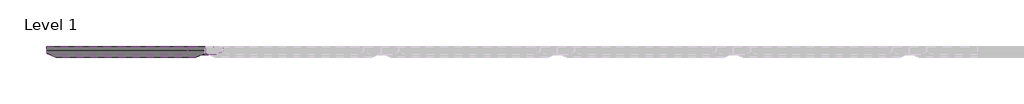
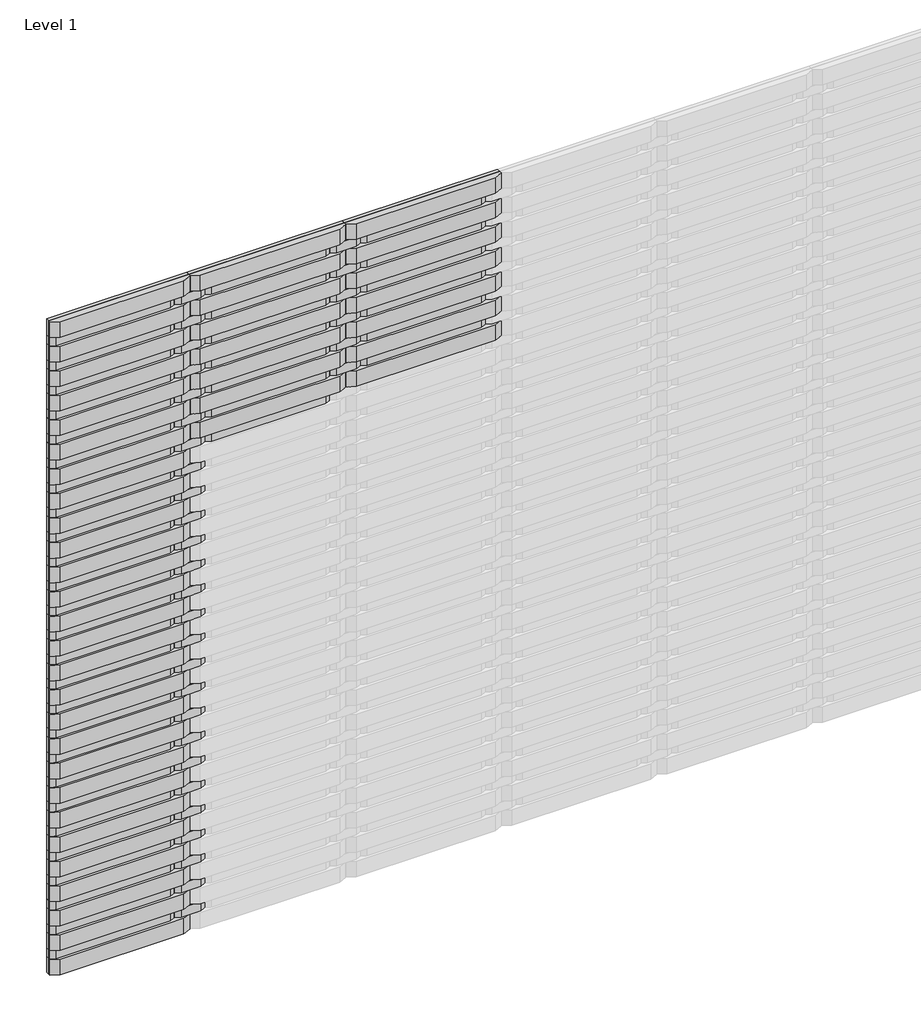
# One storey, part 1 of 4: 112 proxies.
"""IFC4 building model written with IfcOpenShell, lengths in millimetres."""

from ifc_helpers import new_model, si_unit, origin, place, context, project, spatial, transform, mapped, element, save
from components import specialty_equipment_40f1bc00, specialty_equipment_c238b70d, specialty_equipment_b25e9ab8, specialty_equipment_ba4468b7, specialty_equipment_e09701c8

model = new_model("IFC4")

# Units and contexts
model_context = context("Model", 3, world=origin())
ifc_project = project(units=[si_unit("LENGTHUNIT", "METRE", prefix="MILLI")], contexts=[model_context])

# Site, building, storey
site = spatial("IfcSite", under=ifc_project)
building = spatial("IfcBuilding", under=site)
storey = spatial("IfcBuildingStorey", under=building, Name="Level 1", Elevation=0.0)

# Proxies
placement = place(None, origin())
specialty_equipment_shape = specialty_equipment_40f1bc00(model_context)
element("IfcBuildingElementProxy", 1, Name="Spinneybeck_ARO Plank 8 : A - 2’-9” x 3 1/2” x 1 1/4”", ObjectType="Spinneybeck_ARO Plank 8 : A - 2’-9” x 3 1/2” x 1 1/4”", at=placement, inside=storey, context=model_context, shape_type="MappedRepresentation", body=[
    mapped(specialty_equipment_shape, transform((1138.179612, 2593.3070483, 3755.55), x_axis=(1.0, 0.0, 0.0), y_axis=(0.0, 0.0, 1.0), z_axis=(0.0, -1.0, 0.0))),
])
element("IfcBuildingElementProxy", 2, Name="Spinneybeck_ARO Plank 8 : A - 2’-9” x 3 1/2” x 1 1/4”", ObjectType="Spinneybeck_ARO Plank 8 : A - 2’-9” x 3 1/2” x 1 1/4”", at=placement, inside=storey, context=model_context, shape_type="MappedRepresentation", body=[
    mapped(specialty_equipment_shape, transform((1976.379612, 2593.3070483, 3755.55), x_axis=(1.0, 0.0, 0.0), y_axis=(0.0, 0.0, 1.0), z_axis=(0.0, -1.0, 0.0))),
])
element("IfcBuildingElementProxy", 3, Name="Spinneybeck_ARO Plank 8 : A - 2’-9” x 3 1/2” x 1 1/4”", ObjectType="Spinneybeck_ARO Plank 8 : A - 2’-9” x 3 1/2” x 1 1/4”", at=placement, inside=storey, context=model_context, shape_type="MappedRepresentation", body=[
    mapped(specialty_equipment_shape, transform((1138.179612, 2593.3070483, 3615.85), x_axis=(1.0, 0.0, 0.0), y_axis=(0.0, 0.0, 1.0), z_axis=(0.0, -1.0, 0.0))),
])
element("IfcBuildingElementProxy", 4, Name="Spinneybeck_ARO Plank 8 : A - 2’-9” x 3 1/2” x 1 1/4”", ObjectType="Spinneybeck_ARO Plank 8 : A - 2’-9” x 3 1/2” x 1 1/4”", at=placement, inside=storey, context=model_context, shape_type="MappedRepresentation", body=[
    mapped(specialty_equipment_shape, transform((1976.379612, 2593.3070483, 3615.85), x_axis=(1.0, 0.0, 0.0), y_axis=(0.0, 0.0, 1.0), z_axis=(0.0, -1.0, 0.0))),
])
element("IfcBuildingElementProxy", 5, Name="Spinneybeck_ARO Plank 8 : A - 2’-9” x 3 1/2” x 1 1/4”", ObjectType="Spinneybeck_ARO Plank 8 : A - 2’-9” x 3 1/2” x 1 1/4”", at=placement, inside=storey, context=model_context, shape_type="MappedRepresentation", body=[
    mapped(specialty_equipment_shape, transform((1138.179612, 2593.3070483, 3476.15), x_axis=(1.0, 0.0, 0.0), y_axis=(0.0, 0.0, 1.0), z_axis=(0.0, -1.0, 0.0))),
])
element("IfcBuildingElementProxy", 6, Name="Spinneybeck_ARO Plank 8 : A - 2’-9” x 3 1/2” x 1 1/4”", ObjectType="Spinneybeck_ARO Plank 8 : A - 2’-9” x 3 1/2” x 1 1/4”", at=placement, inside=storey, context=model_context, shape_type="MappedRepresentation", body=[
    mapped(specialty_equipment_shape, transform((1976.379612, 2593.3070483, 3476.15), x_axis=(1.0, 0.0, 0.0), y_axis=(0.0, 0.0, 1.0), z_axis=(0.0, -1.0, 0.0))),
])
element("IfcBuildingElementProxy", 7, Name="Spinneybeck_ARO Plank 8 : A - 2’-9” x 3 1/2” x 1 1/4”", ObjectType="Spinneybeck_ARO Plank 8 : A - 2’-9” x 3 1/2” x 1 1/4”", at=placement, inside=storey, context=model_context, shape_type="MappedRepresentation", body=[
    mapped(specialty_equipment_shape, transform((1138.179612, 2593.3070483, 3336.45), x_axis=(1.0, 0.0, 0.0), y_axis=(0.0, 0.0, 1.0), z_axis=(0.0, -1.0, 0.0))),
])
element("IfcBuildingElementProxy", 8, Name="Spinneybeck_ARO Plank 8 : A - 2’-9” x 3 1/2” x 1 1/4”", ObjectType="Spinneybeck_ARO Plank 8 : A - 2’-9” x 3 1/2” x 1 1/4”", at=placement, inside=storey, context=model_context, shape_type="MappedRepresentation", body=[
    mapped(specialty_equipment_shape, transform((1976.379612, 2593.3070483, 3336.45), x_axis=(1.0, 0.0, 0.0), y_axis=(0.0, 0.0, 1.0), z_axis=(0.0, -1.0, 0.0))),
])
element("IfcBuildingElementProxy", 9, Name="Spinneybeck_ARO Plank 8 : A - 2’-9” x 3 1/2” x 1 1/4”", ObjectType="Spinneybeck_ARO Plank 8 : A - 2’-9” x 3 1/2” x 1 1/4”", at=placement, inside=storey, context=model_context, shape_type="MappedRepresentation", body=[
    mapped(specialty_equipment_shape, transform((1138.179612, 2593.3070483, 3196.75), x_axis=(1.0, 0.0, 0.0), y_axis=(0.0, 0.0, 1.0), z_axis=(0.0, -1.0, 0.0))),
])
element("IfcBuildingElementProxy", 10, Name="Spinneybeck_ARO Plank 8 : A - 2’-9” x 3 1/2” x 1 1/4”", ObjectType="Spinneybeck_ARO Plank 8 : A - 2’-9” x 3 1/2” x 1 1/4”", at=placement, inside=storey, context=model_context, shape_type="MappedRepresentation", body=[
    mapped(specialty_equipment_shape, transform((1976.379612, 2593.3070483, 3196.75), x_axis=(1.0, 0.0, 0.0), y_axis=(0.0, 0.0, 1.0), z_axis=(0.0, -1.0, 0.0))),
])
element("IfcBuildingElementProxy", 11, Name="Spinneybeck_ARO Plank 8 : A - 2’-9” x 3 1/2” x 1 1/4”", ObjectType="Spinneybeck_ARO Plank 8 : A - 2’-9” x 3 1/2” x 1 1/4”", at=placement, inside=storey, context=model_context, shape_type="MappedRepresentation", body=[
    mapped(specialty_equipment_shape, transform((1138.179612, 2593.3070483, 3057.05), x_axis=(1.0, 0.0, 0.0), y_axis=(0.0, 0.0, 1.0), z_axis=(0.0, -1.0, 0.0))),
])
element("IfcBuildingElementProxy", 12, Name="Spinneybeck_ARO Plank 8 : A - 2’-9” x 3 1/2” x 1 1/4”", ObjectType="Spinneybeck_ARO Plank 8 : A - 2’-9” x 3 1/2” x 1 1/4”", at=placement, inside=storey, context=model_context, shape_type="MappedRepresentation", body=[
    mapped(specialty_equipment_shape, transform((1976.379612, 2593.3070483, 3057.05), x_axis=(1.0, 0.0, 0.0), y_axis=(0.0, 0.0, 1.0), z_axis=(0.0, -1.0, 0.0))),
])
element("IfcBuildingElementProxy", 13, Name="Spinneybeck_ARO Plank 8 : A - 2’-9” x 3 1/2” x 1 1/4”", ObjectType="Spinneybeck_ARO Plank 8 : A - 2’-9” x 3 1/2” x 1 1/4”", at=placement, inside=storey, context=model_context, shape_type="MappedRepresentation", body=[
    mapped(specialty_equipment_shape, transform((1138.179612, 2593.3070483, 2917.35), x_axis=(1.0, 0.0, 0.0), y_axis=(0.0, 0.0, 1.0), z_axis=(0.0, -1.0, 0.0))),
])
element("IfcBuildingElementProxy", 14, Name="Spinneybeck_ARO Plank 8 : A - 2’-9” x 3 1/2” x 1 1/4”", ObjectType="Spinneybeck_ARO Plank 8 : A - 2’-9” x 3 1/2” x 1 1/4”", at=placement, inside=storey, context=model_context, shape_type="MappedRepresentation", body=[
    mapped(specialty_equipment_shape, transform((1976.379612, 2593.3070483, 2917.35), x_axis=(1.0, 0.0, 0.0), y_axis=(0.0, 0.0, 1.0), z_axis=(0.0, -1.0, 0.0))),
])
specialty_equipment_2_shape = specialty_equipment_c238b70d(model_context)
element("IfcBuildingElementProxy", 15, Name="Spinneybeck_ARO Plank 8 : E - 6 1/2” x 2” x 3/4”", ObjectType="Spinneybeck_ARO Plank 8 : E - 6 1/2” x 2” x 3/4”", at=placement, inside=storey, context=model_context, shape_type="MappedRepresentation", body=[
    mapped(specialty_equipment_2_shape, transform((719.079612, 2593.3070483, 3685.7), x_axis=(1.0, 0.0, 0.0), y_axis=(0.0, 0.0, 1.0), z_axis=(0.0, -1.0, 0.0))),
])
element("IfcBuildingElementProxy", 16, Name="Spinneybeck_ARO Plank 8 : E - 6 1/2” x 2” x 3/4”", ObjectType="Spinneybeck_ARO Plank 8 : E - 6 1/2” x 2” x 3/4”", at=placement, inside=storey, context=model_context, shape_type="MappedRepresentation", body=[
    mapped(specialty_equipment_2_shape, transform((1557.279612, 2593.3070483, 3685.7), x_axis=(1.0, 0.0, 0.0), y_axis=(0.0, 0.0, 1.0), z_axis=(0.0, -1.0, 0.0))),
])
element("IfcBuildingElementProxy", 17, Name="Spinneybeck_ARO Plank 8 : E - 6 1/2” x 2” x 3/4”", ObjectType="Spinneybeck_ARO Plank 8 : E - 6 1/2” x 2” x 3/4”", at=placement, inside=storey, context=model_context, shape_type="MappedRepresentation", body=[
    mapped(specialty_equipment_2_shape, transform((719.079612, 2593.3070483, 3546.0), x_axis=(1.0, 0.0, 0.0), y_axis=(0.0, 0.0, 1.0), z_axis=(0.0, -1.0, 0.0))),
])
element("IfcBuildingElementProxy", 18, Name="Spinneybeck_ARO Plank 8 : E - 6 1/2” x 2” x 3/4”", ObjectType="Spinneybeck_ARO Plank 8 : E - 6 1/2” x 2” x 3/4”", at=placement, inside=storey, context=model_context, shape_type="MappedRepresentation", body=[
    mapped(specialty_equipment_2_shape, transform((1557.279612, 2593.3070483, 3546.0), x_axis=(1.0, 0.0, 0.0), y_axis=(0.0, 0.0, 1.0), z_axis=(0.0, -1.0, 0.0))),
])
element("IfcBuildingElementProxy", 19, Name="Spinneybeck_ARO Plank 8 : E - 6 1/2” x 2” x 3/4”", ObjectType="Spinneybeck_ARO Plank 8 : E - 6 1/2” x 2” x 3/4”", at=placement, inside=storey, context=model_context, shape_type="MappedRepresentation", body=[
    mapped(specialty_equipment_2_shape, transform((719.079612, 2593.3070483, 3406.3), x_axis=(1.0, 0.0, 0.0), y_axis=(0.0, 0.0, 1.0), z_axis=(0.0, -1.0, 0.0))),
])
element("IfcBuildingElementProxy", 20, Name="Spinneybeck_ARO Plank 8 : E - 6 1/2” x 2” x 3/4”", ObjectType="Spinneybeck_ARO Plank 8 : E - 6 1/2” x 2” x 3/4”", at=placement, inside=storey, context=model_context, shape_type="MappedRepresentation", body=[
    mapped(specialty_equipment_2_shape, transform((1557.279612, 2593.3070483, 3406.3), x_axis=(1.0, 0.0, 0.0), y_axis=(0.0, 0.0, 1.0), z_axis=(0.0, -1.0, 0.0))),
])
element("IfcBuildingElementProxy", 21, Name="Spinneybeck_ARO Plank 8 : E - 6 1/2” x 2” x 3/4”", ObjectType="Spinneybeck_ARO Plank 8 : E - 6 1/2” x 2” x 3/4”", at=placement, inside=storey, context=model_context, shape_type="MappedRepresentation", body=[
    mapped(specialty_equipment_2_shape, transform((719.079612, 2593.3070483, 3266.6), x_axis=(1.0, 0.0, 0.0), y_axis=(0.0, 0.0, 1.0), z_axis=(0.0, -1.0, 0.0))),
])
element("IfcBuildingElementProxy", 22, Name="Spinneybeck_ARO Plank 8 : E - 6 1/2” x 2” x 3/4”", ObjectType="Spinneybeck_ARO Plank 8 : E - 6 1/2” x 2” x 3/4”", at=placement, inside=storey, context=model_context, shape_type="MappedRepresentation", body=[
    mapped(specialty_equipment_2_shape, transform((1557.279612, 2593.3070483, 3266.6), x_axis=(1.0, 0.0, 0.0), y_axis=(0.0, 0.0, 1.0), z_axis=(0.0, -1.0, 0.0))),
])
element("IfcBuildingElementProxy", 23, Name="Spinneybeck_ARO Plank 8 : E - 6 1/2” x 2” x 3/4”", ObjectType="Spinneybeck_ARO Plank 8 : E - 6 1/2” x 2” x 3/4”", at=placement, inside=storey, context=model_context, shape_type="MappedRepresentation", body=[
    mapped(specialty_equipment_2_shape, transform((719.079612, 2593.3070483, 3126.9), x_axis=(1.0, 0.0, 0.0), y_axis=(0.0, 0.0, 1.0), z_axis=(0.0, -1.0, 0.0))),
])
element("IfcBuildingElementProxy", 24, Name="Spinneybeck_ARO Plank 8 : E - 6 1/2” x 2” x 3/4”", ObjectType="Spinneybeck_ARO Plank 8 : E - 6 1/2” x 2” x 3/4”", at=placement, inside=storey, context=model_context, shape_type="MappedRepresentation", body=[
    mapped(specialty_equipment_2_shape, transform((1557.279612, 2593.3070483, 3126.9), x_axis=(1.0, 0.0, 0.0), y_axis=(0.0, 0.0, 1.0), z_axis=(0.0, -1.0, 0.0))),
])
element("IfcBuildingElementProxy", 25, Name="Spinneybeck_ARO Plank 8 : E - 6 1/2” x 2” x 3/4”", ObjectType="Spinneybeck_ARO Plank 8 : E - 6 1/2” x 2” x 3/4”", at=placement, inside=storey, context=model_context, shape_type="MappedRepresentation", body=[
    mapped(specialty_equipment_2_shape, transform((719.079612, 2593.3070483, 2987.2), x_axis=(1.0, 0.0, 0.0), y_axis=(0.0, 0.0, 1.0), z_axis=(0.0, -1.0, 0.0))),
])
element("IfcBuildingElementProxy", 26, Name="Spinneybeck_ARO Plank 8 : E - 6 1/2” x 2” x 3/4”", ObjectType="Spinneybeck_ARO Plank 8 : E - 6 1/2” x 2” x 3/4”", at=placement, inside=storey, context=model_context, shape_type="MappedRepresentation", body=[
    mapped(specialty_equipment_2_shape, transform((1557.279612, 2593.3070483, 2987.2), x_axis=(1.0, 0.0, 0.0), y_axis=(0.0, 0.0, 1.0), z_axis=(0.0, -1.0, 0.0))),
])
element("IfcBuildingElementProxy", 27, Name="Spinneybeck_ARO Plank 8 : E - 6 1/2” x 2” x 3/4”", ObjectType="Spinneybeck_ARO Plank 8 : E - 6 1/2” x 2” x 3/4”", at=placement, inside=storey, context=model_context, shape_type="MappedRepresentation", body=[
    mapped(specialty_equipment_2_shape, transform((719.079612, 2593.3070483, 2847.5), x_axis=(1.0, 0.0, 0.0), y_axis=(0.0, 0.0, 1.0), z_axis=(0.0, -1.0, 0.0))),
])
element("IfcBuildingElementProxy", 28, Name="Spinneybeck_ARO Plank 8 : E - 6 1/2” x 2” x 3/4”", ObjectType="Spinneybeck_ARO Plank 8 : E - 6 1/2” x 2” x 3/4”", at=placement, inside=storey, context=model_context, shape_type="MappedRepresentation", body=[
    mapped(specialty_equipment_2_shape, transform((719.079612, 2593.3070483, 2707.8), x_axis=(1.0, 0.0, 0.0), y_axis=(0.0, 0.0, 1.0), z_axis=(0.0, -1.0, 0.0))),
])
element("IfcBuildingElementProxy", 29, Name="Spinneybeck_ARO Plank 8 : E - 6 1/2” x 2” x 3/4”", ObjectType="Spinneybeck_ARO Plank 8 : E - 6 1/2” x 2” x 3/4”", at=placement, inside=storey, context=model_context, shape_type="MappedRepresentation", body=[
    mapped(specialty_equipment_2_shape, transform((719.079612, 2593.3070483, 2568.1), x_axis=(1.0, 0.0, 0.0), y_axis=(0.0, 0.0, 1.0), z_axis=(0.0, -1.0, 0.0))),
])
element("IfcBuildingElementProxy", 30, Name="Spinneybeck_ARO Plank 8 : E - 6 1/2” x 2” x 3/4”", ObjectType="Spinneybeck_ARO Plank 8 : E - 6 1/2” x 2” x 3/4”", at=placement, inside=storey, context=model_context, shape_type="MappedRepresentation", body=[
    mapped(specialty_equipment_2_shape, transform((719.079612, 2593.3070483, 2428.4), x_axis=(1.0, 0.0, 0.0), y_axis=(0.0, 0.0, 1.0), z_axis=(0.0, -1.0, 0.0))),
])
element("IfcBuildingElementProxy", 31, Name="Spinneybeck_ARO Plank 8 : E - 6 1/2” x 2” x 3/4”", ObjectType="Spinneybeck_ARO Plank 8 : E - 6 1/2” x 2” x 3/4”", at=placement, inside=storey, context=model_context, shape_type="MappedRepresentation", body=[
    mapped(specialty_equipment_2_shape, transform((719.079612, 2593.3070483, 2288.7), x_axis=(1.0, 0.0, 0.0), y_axis=(0.0, 0.0, 1.0), z_axis=(0.0, -1.0, 0.0))),
])
element("IfcBuildingElementProxy", 32, Name="Spinneybeck_ARO Plank 8 : E - 6 1/2” x 2” x 3/4”", ObjectType="Spinneybeck_ARO Plank 8 : E - 6 1/2” x 2” x 3/4”", at=placement, inside=storey, context=model_context, shape_type="MappedRepresentation", body=[
    mapped(specialty_equipment_2_shape, transform((719.079612, 2593.3070483, 2149.0), x_axis=(1.0, 0.0, 0.0), y_axis=(0.0, 0.0, 1.0), z_axis=(0.0, -1.0, 0.0))),
])
element("IfcBuildingElementProxy", 33, Name="Spinneybeck_ARO Plank 8 : E - 6 1/2” x 2” x 3/4”", ObjectType="Spinneybeck_ARO Plank 8 : E - 6 1/2” x 2” x 3/4”", at=placement, inside=storey, context=model_context, shape_type="MappedRepresentation", body=[
    mapped(specialty_equipment_2_shape, transform((719.079612, 2593.3070483, 2009.3), x_axis=(1.0, 0.0, 0.0), y_axis=(0.0, 0.0, 1.0), z_axis=(0.0, -1.0, 0.0))),
])
element("IfcBuildingElementProxy", 34, Name="Spinneybeck_ARO Plank 8 : E - 6 1/2” x 2” x 3/4”", ObjectType="Spinneybeck_ARO Plank 8 : E - 6 1/2” x 2” x 3/4”", at=placement, inside=storey, context=model_context, shape_type="MappedRepresentation", body=[
    mapped(specialty_equipment_2_shape, transform((719.079612, 2593.3070483, 1869.6), x_axis=(1.0, 0.0, 0.0), y_axis=(0.0, 0.0, 1.0), z_axis=(0.0, -1.0, 0.0))),
])
element("IfcBuildingElementProxy", 35, Name="Spinneybeck_ARO Plank 8 : E - 6 1/2” x 2” x 3/4”", ObjectType="Spinneybeck_ARO Plank 8 : E - 6 1/2” x 2” x 3/4”", at=placement, inside=storey, context=model_context, shape_type="MappedRepresentation", body=[
    mapped(specialty_equipment_2_shape, transform((719.079612, 2593.3070483, 1729.9), x_axis=(1.0, 0.0, 0.0), y_axis=(0.0, 0.0, 1.0), z_axis=(0.0, -1.0, 0.0))),
])
element("IfcBuildingElementProxy", 36, Name="Spinneybeck_ARO Plank 8 : E - 6 1/2” x 2” x 3/4”", ObjectType="Spinneybeck_ARO Plank 8 : E - 6 1/2” x 2” x 3/4”", at=placement, inside=storey, context=model_context, shape_type="MappedRepresentation", body=[
    mapped(specialty_equipment_2_shape, transform((719.079612, 2593.3070483, 1590.2), x_axis=(1.0, 0.0, 0.0), y_axis=(0.0, 0.0, 1.0), z_axis=(0.0, -1.0, 0.0))),
])
element("IfcBuildingElementProxy", 37, Name="Spinneybeck_ARO Plank 8 : E - 6 1/2” x 2” x 3/4”", ObjectType="Spinneybeck_ARO Plank 8 : E - 6 1/2” x 2” x 3/4”", at=placement, inside=storey, context=model_context, shape_type="MappedRepresentation", body=[
    mapped(specialty_equipment_2_shape, transform((719.079612, 2593.3070483, 1450.5), x_axis=(1.0, 0.0, 0.0), y_axis=(0.0, 0.0, 1.0), z_axis=(0.0, -1.0, 0.0))),
])
element("IfcBuildingElementProxy", 38, Name="Spinneybeck_ARO Plank 8 : E - 6 1/2” x 2” x 3/4”", ObjectType="Spinneybeck_ARO Plank 8 : E - 6 1/2” x 2” x 3/4”", at=placement, inside=storey, context=model_context, shape_type="MappedRepresentation", body=[
    mapped(specialty_equipment_2_shape, transform((719.079612, 2593.3070483, 1310.8), x_axis=(1.0, 0.0, 0.0), y_axis=(0.0, 0.0, 1.0), z_axis=(0.0, -1.0, 0.0))),
])
element("IfcBuildingElementProxy", 39, Name="Spinneybeck_ARO Plank 8 : E - 6 1/2” x 2” x 3/4”", ObjectType="Spinneybeck_ARO Plank 8 : E - 6 1/2” x 2” x 3/4”", at=placement, inside=storey, context=model_context, shape_type="MappedRepresentation", body=[
    mapped(specialty_equipment_2_shape, transform((719.079612, 2593.3070483, 1171.1), x_axis=(1.0, 0.0, 0.0), y_axis=(0.0, 0.0, 1.0), z_axis=(0.0, -1.0, 0.0))),
])
element("IfcBuildingElementProxy", 40, Name="Spinneybeck_ARO Plank 8 : E - 6 1/2” x 2” x 3/4”", ObjectType="Spinneybeck_ARO Plank 8 : E - 6 1/2” x 2” x 3/4”", at=placement, inside=storey, context=model_context, shape_type="MappedRepresentation", body=[
    mapped(specialty_equipment_2_shape, transform((719.079612, 2593.3070483, 1031.4), x_axis=(1.0, 0.0, 0.0), y_axis=(0.0, 0.0, 1.0), z_axis=(0.0, -1.0, 0.0))),
])
element("IfcBuildingElementProxy", 41, Name="Spinneybeck_ARO Plank 8 : E - 6 1/2” x 2” x 3/4”", ObjectType="Spinneybeck_ARO Plank 8 : E - 6 1/2” x 2” x 3/4”", at=placement, inside=storey, context=model_context, shape_type="MappedRepresentation", body=[
    mapped(specialty_equipment_2_shape, transform((719.079612, 2593.3070483, 891.7), x_axis=(1.0, 0.0, 0.0), y_axis=(0.0, 0.0, 1.0), z_axis=(0.0, -1.0, 0.0))),
])
element("IfcBuildingElementProxy", 42, Name="Spinneybeck_ARO Plank 8 : E - 6 1/2” x 2” x 3/4”", ObjectType="Spinneybeck_ARO Plank 8 : E - 6 1/2” x 2” x 3/4”", at=placement, inside=storey, context=model_context, shape_type="MappedRepresentation", body=[
    mapped(specialty_equipment_2_shape, transform((719.079612, 2593.3070483, 752.0), x_axis=(1.0, 0.0, 0.0), y_axis=(0.0, 0.0, 1.0), z_axis=(0.0, -1.0, 0.0))),
])
element("IfcBuildingElementProxy", 43, Name="Spinneybeck_ARO Plank 8 : E - 6 1/2” x 2” x 3/4”", ObjectType="Spinneybeck_ARO Plank 8 : E - 6 1/2” x 2” x 3/4”", at=placement, inside=storey, context=model_context, shape_type="MappedRepresentation", body=[
    mapped(specialty_equipment_2_shape, transform((719.079612, 2593.3070483, 612.3), x_axis=(1.0, 0.0, 0.0), y_axis=(0.0, 0.0, 1.0), z_axis=(0.0, -1.0, 0.0))),
])
element("IfcBuildingElementProxy", 44, Name="Spinneybeck_ARO Plank 8 : E - 6 1/2” x 2” x 3/4”", ObjectType="Spinneybeck_ARO Plank 8 : E - 6 1/2” x 2” x 3/4”", at=placement, inside=storey, context=model_context, shape_type="MappedRepresentation", body=[
    mapped(specialty_equipment_2_shape, transform((719.079612, 2593.3070483, 472.6), x_axis=(1.0, 0.0, 0.0), y_axis=(0.0, 0.0, 1.0), z_axis=(0.0, -1.0, 0.0))),
])
element("IfcBuildingElementProxy", 45, Name="Spinneybeck_ARO Plank 8 : E - 6 1/2” x 2” x 3/4”", ObjectType="Spinneybeck_ARO Plank 8 : E - 6 1/2” x 2” x 3/4”", at=placement, inside=storey, context=model_context, shape_type="MappedRepresentation", body=[
    mapped(specialty_equipment_2_shape, transform((719.079612, 2593.3070483, 332.9), x_axis=(1.0, 0.0, 0.0), y_axis=(0.0, 0.0, 1.0), z_axis=(0.0, -1.0, 0.0))),
])
element("IfcBuildingElementProxy", 46, Name="Spinneybeck_ARO Plank 8 : E - 6 1/2” x 2” x 3/4”", ObjectType="Spinneybeck_ARO Plank 8 : E - 6 1/2” x 2” x 3/4”", at=placement, inside=storey, context=model_context, shape_type="MappedRepresentation", body=[
    mapped(specialty_equipment_2_shape, transform((719.079612, 2593.3070483, 193.2), x_axis=(1.0, 0.0, 0.0), y_axis=(0.0, 0.0, 1.0), z_axis=(0.0, -1.0, 0.0))),
])
specialty_equipment_3_shape = specialty_equipment_b25e9ab8(model_context)
element("IfcBuildingElementProxy", 47, Name="Spinneybeck_ARO Plank 8 : A - 2’-9” x 3 1/2” x 1 1/4”", ObjectType="Spinneybeck_ARO Plank 8 : A - 2’-9” x 3 1/2” x 1 1/4”", at=placement, inside=storey, context=model_context, shape_type="MappedRepresentation", body=[
    mapped(specialty_equipment_3_shape, transform((341.254612, 2593.3070483, 3755.55), x_axis=(1.0, 0.0, 0.0), y_axis=(0.0, 0.0, 1.0), z_axis=(0.0, -1.0, 0.0))),
])
element("IfcBuildingElementProxy", 48, Name="Spinneybeck_ARO Plank 8 : A - 2’-9” x 3 1/2” x 1 1/4”", ObjectType="Spinneybeck_ARO Plank 8 : A - 2’-9” x 3 1/2” x 1 1/4”", at=placement, inside=storey, context=model_context, shape_type="MappedRepresentation", body=[
    mapped(specialty_equipment_3_shape, transform((341.254612, 2593.3070483, 3615.85), x_axis=(1.0, 0.0, 0.0), y_axis=(0.0, 0.0, 1.0), z_axis=(0.0, -1.0, 0.0))),
])
element("IfcBuildingElementProxy", 49, Name="Spinneybeck_ARO Plank 8 : A - 2’-9” x 3 1/2” x 1 1/4”", ObjectType="Spinneybeck_ARO Plank 8 : A - 2’-9” x 3 1/2” x 1 1/4”", at=placement, inside=storey, context=model_context, shape_type="MappedRepresentation", body=[
    mapped(specialty_equipment_3_shape, transform((341.254612, 2593.3070483, 3476.15), x_axis=(1.0, 0.0, 0.0), y_axis=(0.0, 0.0, 1.0), z_axis=(0.0, -1.0, 0.0))),
])
element("IfcBuildingElementProxy", 50, Name="Spinneybeck_ARO Plank 8 : A - 2’-9” x 3 1/2” x 1 1/4”", ObjectType="Spinneybeck_ARO Plank 8 : A - 2’-9” x 3 1/2” x 1 1/4”", at=placement, inside=storey, context=model_context, shape_type="MappedRepresentation", body=[
    mapped(specialty_equipment_3_shape, transform((341.254612, 2593.3070483, 3336.45), x_axis=(1.0, 0.0, 0.0), y_axis=(0.0, 0.0, 1.0), z_axis=(0.0, -1.0, 0.0))),
])
element("IfcBuildingElementProxy", 51, Name="Spinneybeck_ARO Plank 8 : A - 2’-9” x 3 1/2” x 1 1/4”", ObjectType="Spinneybeck_ARO Plank 8 : A - 2’-9” x 3 1/2” x 1 1/4”", at=placement, inside=storey, context=model_context, shape_type="MappedRepresentation", body=[
    mapped(specialty_equipment_3_shape, transform((341.254612, 2593.3070483, 3196.75), x_axis=(1.0, 0.0, 0.0), y_axis=(0.0, 0.0, 1.0), z_axis=(0.0, -1.0, 0.0))),
])
element("IfcBuildingElementProxy", 52, Name="Spinneybeck_ARO Plank 8 : A - 2’-9” x 3 1/2” x 1 1/4”", ObjectType="Spinneybeck_ARO Plank 8 : A - 2’-9” x 3 1/2” x 1 1/4”", at=placement, inside=storey, context=model_context, shape_type="MappedRepresentation", body=[
    mapped(specialty_equipment_3_shape, transform((341.254612, 2593.3070483, 3057.05), x_axis=(1.0, 0.0, 0.0), y_axis=(0.0, 0.0, 1.0), z_axis=(0.0, -1.0, 0.0))),
])
element("IfcBuildingElementProxy", 53, Name="Spinneybeck_ARO Plank 8 : A - 2’-9” x 3 1/2” x 1 1/4”", ObjectType="Spinneybeck_ARO Plank 8 : A - 2’-9” x 3 1/2” x 1 1/4”", at=placement, inside=storey, context=model_context, shape_type="MappedRepresentation", body=[
    mapped(specialty_equipment_3_shape, transform((341.254612, 2593.3070483, 2917.35), x_axis=(1.0, 0.0, 0.0), y_axis=(0.0, 0.0, 1.0), z_axis=(0.0, -1.0, 0.0))),
])
element("IfcBuildingElementProxy", 54, Name="Spinneybeck_ARO Plank 8 : A - 2’-9” x 3 1/2” x 1 1/4”", ObjectType="Spinneybeck_ARO Plank 8 : A - 2’-9” x 3 1/2” x 1 1/4”", at=placement, inside=storey, context=model_context, shape_type="MappedRepresentation", body=[
    mapped(specialty_equipment_3_shape, transform((341.254612, 2593.3070483, 2777.65), x_axis=(1.0, 0.0, 0.0), y_axis=(0.0, 0.0, 1.0), z_axis=(0.0, -1.0, 0.0))),
])
element("IfcBuildingElementProxy", 55, Name="Spinneybeck_ARO Plank 8 : A - 2’-9” x 3 1/2” x 1 1/4”", ObjectType="Spinneybeck_ARO Plank 8 : A - 2’-9” x 3 1/2” x 1 1/4”", at=placement, inside=storey, context=model_context, shape_type="MappedRepresentation", body=[
    mapped(specialty_equipment_3_shape, transform((341.254612, 2593.3070483, 2637.95), x_axis=(1.0, 0.0, 0.0), y_axis=(0.0, 0.0, 1.0), z_axis=(0.0, -1.0, 0.0))),
])
element("IfcBuildingElementProxy", 56, Name="Spinneybeck_ARO Plank 8 : A - 2’-9” x 3 1/2” x 1 1/4”", ObjectType="Spinneybeck_ARO Plank 8 : A - 2’-9” x 3 1/2” x 1 1/4”", at=placement, inside=storey, context=model_context, shape_type="MappedRepresentation", body=[
    mapped(specialty_equipment_3_shape, transform((341.254612, 2593.3070483, 2498.25), x_axis=(1.0, 0.0, 0.0), y_axis=(0.0, 0.0, 1.0), z_axis=(0.0, -1.0, 0.0))),
])
element("IfcBuildingElementProxy", 57, Name="Spinneybeck_ARO Plank 8 : A - 2’-9” x 3 1/2” x 1 1/4”", ObjectType="Spinneybeck_ARO Plank 8 : A - 2’-9” x 3 1/2” x 1 1/4”", at=placement, inside=storey, context=model_context, shape_type="MappedRepresentation", body=[
    mapped(specialty_equipment_3_shape, transform((341.254612, 2593.3070483, 2358.55), x_axis=(1.0, 0.0, 0.0), y_axis=(0.0, 0.0, 1.0), z_axis=(0.0, -1.0, 0.0))),
])
element("IfcBuildingElementProxy", 58, Name="Spinneybeck_ARO Plank 8 : A - 2’-9” x 3 1/2” x 1 1/4”", ObjectType="Spinneybeck_ARO Plank 8 : A - 2’-9” x 3 1/2” x 1 1/4”", at=placement, inside=storey, context=model_context, shape_type="MappedRepresentation", body=[
    mapped(specialty_equipment_3_shape, transform((341.254612, 2593.3070483, 2218.85), x_axis=(1.0, 0.0, 0.0), y_axis=(0.0, 0.0, 1.0), z_axis=(0.0, -1.0, 0.0))),
])
element("IfcBuildingElementProxy", 59, Name="Spinneybeck_ARO Plank 8 : A - 2’-9” x 3 1/2” x 1 1/4”", ObjectType="Spinneybeck_ARO Plank 8 : A - 2’-9” x 3 1/2” x 1 1/4”", at=placement, inside=storey, context=model_context, shape_type="MappedRepresentation", body=[
    mapped(specialty_equipment_3_shape, transform((341.254612, 2593.3070483, 2079.15), x_axis=(1.0, 0.0, 0.0), y_axis=(0.0, 0.0, 1.0), z_axis=(0.0, -1.0, 0.0))),
])
element("IfcBuildingElementProxy", 60, Name="Spinneybeck_ARO Plank 8 : A - 2’-9” x 3 1/2” x 1 1/4”", ObjectType="Spinneybeck_ARO Plank 8 : A - 2’-9” x 3 1/2” x 1 1/4”", at=placement, inside=storey, context=model_context, shape_type="MappedRepresentation", body=[
    mapped(specialty_equipment_3_shape, transform((341.254612, 2593.3070483, 1939.45), x_axis=(1.0, 0.0, 0.0), y_axis=(0.0, 0.0, 1.0), z_axis=(0.0, -1.0, 0.0))),
])
element("IfcBuildingElementProxy", 61, Name="Spinneybeck_ARO Plank 8 : A - 2’-9” x 3 1/2” x 1 1/4”", ObjectType="Spinneybeck_ARO Plank 8 : A - 2’-9” x 3 1/2” x 1 1/4”", at=placement, inside=storey, context=model_context, shape_type="MappedRepresentation", body=[
    mapped(specialty_equipment_3_shape, transform((341.254612, 2593.3070483, 1799.75), x_axis=(1.0, 0.0, 0.0), y_axis=(0.0, 0.0, 1.0), z_axis=(0.0, -1.0, 0.0))),
])
element("IfcBuildingElementProxy", 62, Name="Spinneybeck_ARO Plank 8 : A - 2’-9” x 3 1/2” x 1 1/4”", ObjectType="Spinneybeck_ARO Plank 8 : A - 2’-9” x 3 1/2” x 1 1/4”", at=placement, inside=storey, context=model_context, shape_type="MappedRepresentation", body=[
    mapped(specialty_equipment_3_shape, transform((341.254612, 2593.3070483, 1660.05), x_axis=(1.0, 0.0, 0.0), y_axis=(0.0, 0.0, 1.0), z_axis=(0.0, -1.0, 0.0))),
])
element("IfcBuildingElementProxy", 63, Name="Spinneybeck_ARO Plank 8 : A - 2’-9” x 3 1/2” x 1 1/4”", ObjectType="Spinneybeck_ARO Plank 8 : A - 2’-9” x 3 1/2” x 1 1/4”", at=placement, inside=storey, context=model_context, shape_type="MappedRepresentation", body=[
    mapped(specialty_equipment_3_shape, transform((341.254612, 2593.3070483, 1520.35), x_axis=(1.0, 0.0, 0.0), y_axis=(0.0, 0.0, 1.0), z_axis=(0.0, -1.0, 0.0))),
])
element("IfcBuildingElementProxy", 64, Name="Spinneybeck_ARO Plank 8 : A - 2’-9” x 3 1/2” x 1 1/4”", ObjectType="Spinneybeck_ARO Plank 8 : A - 2’-9” x 3 1/2” x 1 1/4”", at=placement, inside=storey, context=model_context, shape_type="MappedRepresentation", body=[
    mapped(specialty_equipment_3_shape, transform((341.254612, 2593.3070483, 1380.65), x_axis=(1.0, 0.0, 0.0), y_axis=(0.0, 0.0, 1.0), z_axis=(0.0, -1.0, 0.0))),
])
element("IfcBuildingElementProxy", 65, Name="Spinneybeck_ARO Plank 8 : A - 2’-9” x 3 1/2” x 1 1/4”", ObjectType="Spinneybeck_ARO Plank 8 : A - 2’-9” x 3 1/2” x 1 1/4”", at=placement, inside=storey, context=model_context, shape_type="MappedRepresentation", body=[
    mapped(specialty_equipment_3_shape, transform((341.254612, 2593.3070483, 1240.95), x_axis=(1.0, 0.0, 0.0), y_axis=(0.0, 0.0, 1.0), z_axis=(0.0, -1.0, 0.0))),
])
element("IfcBuildingElementProxy", 66, Name="Spinneybeck_ARO Plank 8 : A - 2’-9” x 3 1/2” x 1 1/4”", ObjectType="Spinneybeck_ARO Plank 8 : A - 2’-9” x 3 1/2” x 1 1/4”", at=placement, inside=storey, context=model_context, shape_type="MappedRepresentation", body=[
    mapped(specialty_equipment_3_shape, transform((341.254612, 2593.3070483, 1101.25), x_axis=(1.0, 0.0, 0.0), y_axis=(0.0, 0.0, 1.0), z_axis=(0.0, -1.0, 0.0))),
])
element("IfcBuildingElementProxy", 67, Name="Spinneybeck_ARO Plank 8 : A - 2’-9” x 3 1/2” x 1 1/4”", ObjectType="Spinneybeck_ARO Plank 8 : A - 2’-9” x 3 1/2” x 1 1/4”", at=placement, inside=storey, context=model_context, shape_type="MappedRepresentation", body=[
    mapped(specialty_equipment_3_shape, transform((341.254612, 2593.3070483, 961.55), x_axis=(1.0, 0.0, 0.0), y_axis=(0.0, 0.0, 1.0), z_axis=(0.0, -1.0, 0.0))),
])
element("IfcBuildingElementProxy", 68, Name="Spinneybeck_ARO Plank 8 : A - 2’-9” x 3 1/2” x 1 1/4”", ObjectType="Spinneybeck_ARO Plank 8 : A - 2’-9” x 3 1/2” x 1 1/4”", at=placement, inside=storey, context=model_context, shape_type="MappedRepresentation", body=[
    mapped(specialty_equipment_3_shape, transform((341.254612, 2593.3070483, 821.85), x_axis=(1.0, 0.0, 0.0), y_axis=(0.0, 0.0, 1.0), z_axis=(0.0, -1.0, 0.0))),
])
element("IfcBuildingElementProxy", 69, Name="Spinneybeck_ARO Plank 8 : A - 2’-9” x 3 1/2” x 1 1/4”", ObjectType="Spinneybeck_ARO Plank 8 : A - 2’-9” x 3 1/2” x 1 1/4”", at=placement, inside=storey, context=model_context, shape_type="MappedRepresentation", body=[
    mapped(specialty_equipment_3_shape, transform((341.254612, 2593.3070483, 682.15), x_axis=(1.0, 0.0, 0.0), y_axis=(0.0, 0.0, 1.0), z_axis=(0.0, -1.0, 0.0))),
])
element("IfcBuildingElementProxy", 70, Name="Spinneybeck_ARO Plank 8 : A - 2’-9” x 3 1/2” x 1 1/4”", ObjectType="Spinneybeck_ARO Plank 8 : A - 2’-9” x 3 1/2” x 1 1/4”", at=placement, inside=storey, context=model_context, shape_type="MappedRepresentation", body=[
    mapped(specialty_equipment_3_shape, transform((341.254612, 2593.3070483, 542.45), x_axis=(1.0, 0.0, 0.0), y_axis=(0.0, 0.0, 1.0), z_axis=(0.0, -1.0, 0.0))),
])
element("IfcBuildingElementProxy", 71, Name="Spinneybeck_ARO Plank 8 : A - 2’-9” x 3 1/2” x 1 1/4”", ObjectType="Spinneybeck_ARO Plank 8 : A - 2’-9” x 3 1/2” x 1 1/4”", at=placement, inside=storey, context=model_context, shape_type="MappedRepresentation", body=[
    mapped(specialty_equipment_3_shape, transform((341.254612, 2593.3070483, 402.75), x_axis=(1.0, 0.0, 0.0), y_axis=(0.0, 0.0, 1.0), z_axis=(0.0, -1.0, 0.0))),
])
element("IfcBuildingElementProxy", 72, Name="Spinneybeck_ARO Plank 8 : A - 2’-9” x 3 1/2” x 1 1/4”", ObjectType="Spinneybeck_ARO Plank 8 : A - 2’-9” x 3 1/2” x 1 1/4”", at=placement, inside=storey, context=model_context, shape_type="MappedRepresentation", body=[
    mapped(specialty_equipment_3_shape, transform((341.254612, 2593.3070483, 263.05), x_axis=(1.0, 0.0, 0.0), y_axis=(0.0, 0.0, 1.0), z_axis=(0.0, -1.0, 0.0))),
])
element("IfcBuildingElementProxy", 73, Name="Spinneybeck_ARO Plank 8 : A - 2’-9” x 3 1/2” x 1 1/4”", ObjectType="Spinneybeck_ARO Plank 8 : A - 2’-9” x 3 1/2” x 1 1/4”", at=placement, inside=storey, context=model_context, shape_type="MappedRepresentation", body=[
    mapped(specialty_equipment_3_shape, transform((341.254612, 2593.3070483, 123.35), x_axis=(1.0, 0.0, 0.0), y_axis=(0.0, 0.0, 1.0), z_axis=(0.0, -1.0, 0.0))),
])
specialty_equipment_4_shape = specialty_equipment_ba4468b7(model_context)
element("IfcBuildingElementProxy", 74, Name="Spinneybeck_ARO Plank 8 : D - 2’-2 1/2” x 2” x 3/4”", ObjectType="Spinneybeck_ARO Plank 8 : D - 2’-2 1/2” x 2” x 3/4”", at=placement, inside=storey, context=model_context, shape_type="MappedRepresentation", body=[
    mapped(specialty_equipment_4_shape, transform((300.029612, 2593.3070483, 3685.7), x_axis=(1.0, 0.0, 0.0), y_axis=(0.0, 0.0, 1.0), z_axis=(0.0, -1.0, 0.0))),
])
element("IfcBuildingElementProxy", 75, Name="Spinneybeck_ARO Plank 8 : D - 2’-2 1/2” x 2” x 3/4”", ObjectType="Spinneybeck_ARO Plank 8 : D - 2’-2 1/2” x 2” x 3/4”", at=placement, inside=storey, context=model_context, shape_type="MappedRepresentation", body=[
    mapped(specialty_equipment_4_shape, transform((300.029612, 2593.3070483, 3546.0), x_axis=(1.0, 0.0, 0.0), y_axis=(0.0, 0.0, 1.0), z_axis=(0.0, -1.0, 0.0))),
])
element("IfcBuildingElementProxy", 76, Name="Spinneybeck_ARO Plank 8 : D - 2’-2 1/2” x 2” x 3/4”", ObjectType="Spinneybeck_ARO Plank 8 : D - 2’-2 1/2” x 2” x 3/4”", at=placement, inside=storey, context=model_context, shape_type="MappedRepresentation", body=[
    mapped(specialty_equipment_4_shape, transform((300.029612, 2593.3070483, 3406.3), x_axis=(1.0, 0.0, 0.0), y_axis=(0.0, 0.0, 1.0), z_axis=(0.0, -1.0, 0.0))),
])
element("IfcBuildingElementProxy", 77, Name="Spinneybeck_ARO Plank 8 : D - 2’-2 1/2” x 2” x 3/4”", ObjectType="Spinneybeck_ARO Plank 8 : D - 2’-2 1/2” x 2” x 3/4”", at=placement, inside=storey, context=model_context, shape_type="MappedRepresentation", body=[
    mapped(specialty_equipment_4_shape, transform((300.029612, 2593.3070483, 3266.6), x_axis=(1.0, 0.0, 0.0), y_axis=(0.0, 0.0, 1.0), z_axis=(0.0, -1.0, 0.0))),
])
element("IfcBuildingElementProxy", 78, Name="Spinneybeck_ARO Plank 8 : D - 2’-2 1/2” x 2” x 3/4”", ObjectType="Spinneybeck_ARO Plank 8 : D - 2’-2 1/2” x 2” x 3/4”", at=placement, inside=storey, context=model_context, shape_type="MappedRepresentation", body=[
    mapped(specialty_equipment_4_shape, transform((300.029612, 2593.3070483, 3126.9), x_axis=(1.0, 0.0, 0.0), y_axis=(0.0, 0.0, 1.0), z_axis=(0.0, -1.0, 0.0))),
])
element("IfcBuildingElementProxy", 79, Name="Spinneybeck_ARO Plank 8 : D - 2’-2 1/2” x 2” x 3/4”", ObjectType="Spinneybeck_ARO Plank 8 : D - 2’-2 1/2” x 2” x 3/4”", at=placement, inside=storey, context=model_context, shape_type="MappedRepresentation", body=[
    mapped(specialty_equipment_4_shape, transform((300.029612, 2593.3070483, 2987.2), x_axis=(1.0, 0.0, 0.0), y_axis=(0.0, 0.0, 1.0), z_axis=(0.0, -1.0, 0.0))),
])
element("IfcBuildingElementProxy", 80, Name="Spinneybeck_ARO Plank 8 : D - 2’-2 1/2” x 2” x 3/4”", ObjectType="Spinneybeck_ARO Plank 8 : D - 2’-2 1/2” x 2” x 3/4”", at=placement, inside=storey, context=model_context, shape_type="MappedRepresentation", body=[
    mapped(specialty_equipment_4_shape, transform((300.029612, 2593.3070483, 2847.5), x_axis=(1.0, 0.0, 0.0), y_axis=(0.0, 0.0, 1.0), z_axis=(0.0, -1.0, 0.0))),
])
element("IfcBuildingElementProxy", 81, Name="Spinneybeck_ARO Plank 8 : D - 2’-2 1/2” x 2” x 3/4”", ObjectType="Spinneybeck_ARO Plank 8 : D - 2’-2 1/2” x 2” x 3/4”", at=placement, inside=storey, context=model_context, shape_type="MappedRepresentation", body=[
    mapped(specialty_equipment_4_shape, transform((300.029612, 2593.3070483, 2707.8), x_axis=(1.0, 0.0, 0.0), y_axis=(0.0, 0.0, 1.0), z_axis=(0.0, -1.0, 0.0))),
])
element("IfcBuildingElementProxy", 82, Name="Spinneybeck_ARO Plank 8 : D - 2’-2 1/2” x 2” x 3/4”", ObjectType="Spinneybeck_ARO Plank 8 : D - 2’-2 1/2” x 2” x 3/4”", at=placement, inside=storey, context=model_context, shape_type="MappedRepresentation", body=[
    mapped(specialty_equipment_4_shape, transform((300.029612, 2593.3070483, 2568.1), x_axis=(1.0, 0.0, 0.0), y_axis=(0.0, 0.0, 1.0), z_axis=(0.0, -1.0, 0.0))),
])
element("IfcBuildingElementProxy", 83, Name="Spinneybeck_ARO Plank 8 : D - 2’-2 1/2” x 2” x 3/4”", ObjectType="Spinneybeck_ARO Plank 8 : D - 2’-2 1/2” x 2” x 3/4”", at=placement, inside=storey, context=model_context, shape_type="MappedRepresentation", body=[
    mapped(specialty_equipment_4_shape, transform((300.029612, 2593.3070483, 2428.4), x_axis=(1.0, 0.0, 0.0), y_axis=(0.0, 0.0, 1.0), z_axis=(0.0, -1.0, 0.0))),
])
element("IfcBuildingElementProxy", 84, Name="Spinneybeck_ARO Plank 8 : D - 2’-2 1/2” x 2” x 3/4”", ObjectType="Spinneybeck_ARO Plank 8 : D - 2’-2 1/2” x 2” x 3/4”", at=placement, inside=storey, context=model_context, shape_type="MappedRepresentation", body=[
    mapped(specialty_equipment_4_shape, transform((300.029612, 2593.3070483, 2288.7), x_axis=(1.0, 0.0, 0.0), y_axis=(0.0, 0.0, 1.0), z_axis=(0.0, -1.0, 0.0))),
])
element("IfcBuildingElementProxy", 85, Name="Spinneybeck_ARO Plank 8 : D - 2’-2 1/2” x 2” x 3/4”", ObjectType="Spinneybeck_ARO Plank 8 : D - 2’-2 1/2” x 2” x 3/4”", at=placement, inside=storey, context=model_context, shape_type="MappedRepresentation", body=[
    mapped(specialty_equipment_4_shape, transform((300.029612, 2593.3070483, 2149.0), x_axis=(1.0, 0.0, 0.0), y_axis=(0.0, 0.0, 1.0), z_axis=(0.0, -1.0, 0.0))),
])
element("IfcBuildingElementProxy", 86, Name="Spinneybeck_ARO Plank 8 : D - 2’-2 1/2” x 2” x 3/4”", ObjectType="Spinneybeck_ARO Plank 8 : D - 2’-2 1/2” x 2” x 3/4”", at=placement, inside=storey, context=model_context, shape_type="MappedRepresentation", body=[
    mapped(specialty_equipment_4_shape, transform((300.029612, 2593.3070483, 2009.3), x_axis=(1.0, 0.0, 0.0), y_axis=(0.0, 0.0, 1.0), z_axis=(0.0, -1.0, 0.0))),
])
element("IfcBuildingElementProxy", 87, Name="Spinneybeck_ARO Plank 8 : D - 2’-2 1/2” x 2” x 3/4”", ObjectType="Spinneybeck_ARO Plank 8 : D - 2’-2 1/2” x 2” x 3/4”", at=placement, inside=storey, context=model_context, shape_type="MappedRepresentation", body=[
    mapped(specialty_equipment_4_shape, transform((300.029612, 2593.3070483, 1869.6), x_axis=(1.0, 0.0, 0.0), y_axis=(0.0, 0.0, 1.0), z_axis=(0.0, -1.0, 0.0))),
])
element("IfcBuildingElementProxy", 88, Name="Spinneybeck_ARO Plank 8 : D - 2’-2 1/2” x 2” x 3/4”", ObjectType="Spinneybeck_ARO Plank 8 : D - 2’-2 1/2” x 2” x 3/4”", at=placement, inside=storey, context=model_context, shape_type="MappedRepresentation", body=[
    mapped(specialty_equipment_4_shape, transform((300.029612, 2593.3070483, 1729.9), x_axis=(1.0, 0.0, 0.0), y_axis=(0.0, 0.0, 1.0), z_axis=(0.0, -1.0, 0.0))),
])
element("IfcBuildingElementProxy", 89, Name="Spinneybeck_ARO Plank 8 : D - 2’-2 1/2” x 2” x 3/4”", ObjectType="Spinneybeck_ARO Plank 8 : D - 2’-2 1/2” x 2” x 3/4”", at=placement, inside=storey, context=model_context, shape_type="MappedRepresentation", body=[
    mapped(specialty_equipment_4_shape, transform((300.029612, 2593.3070483, 1590.2), x_axis=(1.0, 0.0, 0.0), y_axis=(0.0, 0.0, 1.0), z_axis=(0.0, -1.0, 0.0))),
])
element("IfcBuildingElementProxy", 90, Name="Spinneybeck_ARO Plank 8 : D - 2’-2 1/2” x 2” x 3/4”", ObjectType="Spinneybeck_ARO Plank 8 : D - 2’-2 1/2” x 2” x 3/4”", at=placement, inside=storey, context=model_context, shape_type="MappedRepresentation", body=[
    mapped(specialty_equipment_4_shape, transform((300.029612, 2593.3070483, 1450.5), x_axis=(1.0, 0.0, 0.0), y_axis=(0.0, 0.0, 1.0), z_axis=(0.0, -1.0, 0.0))),
])
element("IfcBuildingElementProxy", 91, Name="Spinneybeck_ARO Plank 8 : D - 2’-2 1/2” x 2” x 3/4”", ObjectType="Spinneybeck_ARO Plank 8 : D - 2’-2 1/2” x 2” x 3/4”", at=placement, inside=storey, context=model_context, shape_type="MappedRepresentation", body=[
    mapped(specialty_equipment_4_shape, transform((300.029612, 2593.3070483, 1310.8), x_axis=(1.0, 0.0, 0.0), y_axis=(0.0, 0.0, 1.0), z_axis=(0.0, -1.0, 0.0))),
])
element("IfcBuildingElementProxy", 92, Name="Spinneybeck_ARO Plank 8 : D - 2’-2 1/2” x 2” x 3/4”", ObjectType="Spinneybeck_ARO Plank 8 : D - 2’-2 1/2” x 2” x 3/4”", at=placement, inside=storey, context=model_context, shape_type="MappedRepresentation", body=[
    mapped(specialty_equipment_4_shape, transform((300.029612, 2593.3070483, 1171.1), x_axis=(1.0, 0.0, 0.0), y_axis=(0.0, 0.0, 1.0), z_axis=(0.0, -1.0, 0.0))),
])
element("IfcBuildingElementProxy", 93, Name="Spinneybeck_ARO Plank 8 : D - 2’-2 1/2” x 2” x 3/4”", ObjectType="Spinneybeck_ARO Plank 8 : D - 2’-2 1/2” x 2” x 3/4”", at=placement, inside=storey, context=model_context, shape_type="MappedRepresentation", body=[
    mapped(specialty_equipment_4_shape, transform((300.029612, 2593.3070483, 1031.4), x_axis=(1.0, 0.0, 0.0), y_axis=(0.0, 0.0, 1.0), z_axis=(0.0, -1.0, 0.0))),
])
element("IfcBuildingElementProxy", 94, Name="Spinneybeck_ARO Plank 8 : D - 2’-2 1/2” x 2” x 3/4”", ObjectType="Spinneybeck_ARO Plank 8 : D - 2’-2 1/2” x 2” x 3/4”", at=placement, inside=storey, context=model_context, shape_type="MappedRepresentation", body=[
    mapped(specialty_equipment_4_shape, transform((300.029612, 2593.3070483, 891.7), x_axis=(1.0, 0.0, 0.0), y_axis=(0.0, 0.0, 1.0), z_axis=(0.0, -1.0, 0.0))),
])
element("IfcBuildingElementProxy", 95, Name="Spinneybeck_ARO Plank 8 : D - 2’-2 1/2” x 2” x 3/4”", ObjectType="Spinneybeck_ARO Plank 8 : D - 2’-2 1/2” x 2” x 3/4”", at=placement, inside=storey, context=model_context, shape_type="MappedRepresentation", body=[
    mapped(specialty_equipment_4_shape, transform((300.029612, 2593.3070483, 752.0), x_axis=(1.0, 0.0, 0.0), y_axis=(0.0, 0.0, 1.0), z_axis=(0.0, -1.0, 0.0))),
])
element("IfcBuildingElementProxy", 96, Name="Spinneybeck_ARO Plank 8 : D - 2’-2 1/2” x 2” x 3/4”", ObjectType="Spinneybeck_ARO Plank 8 : D - 2’-2 1/2” x 2” x 3/4”", at=placement, inside=storey, context=model_context, shape_type="MappedRepresentation", body=[
    mapped(specialty_equipment_4_shape, transform((300.029612, 2593.3070483, 612.3), x_axis=(1.0, 0.0, 0.0), y_axis=(0.0, 0.0, 1.0), z_axis=(0.0, -1.0, 0.0))),
])
element("IfcBuildingElementProxy", 97, Name="Spinneybeck_ARO Plank 8 : D - 2’-2 1/2” x 2” x 3/4”", ObjectType="Spinneybeck_ARO Plank 8 : D - 2’-2 1/2” x 2” x 3/4”", at=placement, inside=storey, context=model_context, shape_type="MappedRepresentation", body=[
    mapped(specialty_equipment_4_shape, transform((300.029612, 2593.3070483, 472.6), x_axis=(1.0, 0.0, 0.0), y_axis=(0.0, 0.0, 1.0), z_axis=(0.0, -1.0, 0.0))),
])
element("IfcBuildingElementProxy", 98, Name="Spinneybeck_ARO Plank 8 : D - 2’-2 1/2” x 2” x 3/4”", ObjectType="Spinneybeck_ARO Plank 8 : D - 2’-2 1/2” x 2” x 3/4”", at=placement, inside=storey, context=model_context, shape_type="MappedRepresentation", body=[
    mapped(specialty_equipment_4_shape, transform((300.029612, 2593.3070483, 332.9), x_axis=(1.0, 0.0, 0.0), y_axis=(0.0, 0.0, 1.0), z_axis=(0.0, -1.0, 0.0))),
])
element("IfcBuildingElementProxy", 99, Name="Spinneybeck_ARO Plank 8 : D - 2’-2 1/2” x 2” x 3/4”", ObjectType="Spinneybeck_ARO Plank 8 : D - 2’-2 1/2” x 2” x 3/4”", at=placement, inside=storey, context=model_context, shape_type="MappedRepresentation", body=[
    mapped(specialty_equipment_4_shape, transform((300.029612, 2593.3070483, 193.2), x_axis=(1.0, 0.0, 0.0), y_axis=(0.0, 0.0, 1.0), z_axis=(0.0, -1.0, 0.0))),
])
specialty_equipment_5_shape = specialty_equipment_e09701c8(model_context)
element("IfcBuildingElementProxy", 100, Name="Spinneybeck_ARO Plank 8 : D - 2’-2 1/2” x 2” x 3/4”", ObjectType="Spinneybeck_ARO Plank 8 : D - 2’-2 1/2” x 2” x 3/4”", at=placement, inside=storey, context=model_context, shape_type="MappedRepresentation", body=[
    mapped(specialty_equipment_5_shape, transform((1138.129612, 2593.3070483, 3685.7), x_axis=(-1.0, 0.0, 0.0), y_axis=(0.0, 0.0, -1.0), z_axis=(0.0, -1.0, 0.0))),
])
element("IfcBuildingElementProxy", 101, Name="Spinneybeck_ARO Plank 8 : D - 2’-2 1/2” x 2” x 3/4”", ObjectType="Spinneybeck_ARO Plank 8 : D - 2’-2 1/2” x 2” x 3/4”", at=placement, inside=storey, context=model_context, shape_type="MappedRepresentation", body=[
    mapped(specialty_equipment_5_shape, transform((1976.329612, 2593.3070483, 3685.7), x_axis=(-1.0, 0.0, 0.0), y_axis=(0.0, 0.0, -1.0), z_axis=(0.0, -1.0, 0.0))),
])
element("IfcBuildingElementProxy", 102, Name="Spinneybeck_ARO Plank 8 : D - 2’-2 1/2” x 2” x 3/4”", ObjectType="Spinneybeck_ARO Plank 8 : D - 2’-2 1/2” x 2” x 3/4”", at=placement, inside=storey, context=model_context, shape_type="MappedRepresentation", body=[
    mapped(specialty_equipment_5_shape, transform((1138.129612, 2593.3070483, 3546.0), x_axis=(-1.0, 0.0, 0.0), y_axis=(0.0, 0.0, -1.0), z_axis=(0.0, -1.0, 0.0))),
])
element("IfcBuildingElementProxy", 103, Name="Spinneybeck_ARO Plank 8 : D - 2’-2 1/2” x 2” x 3/4”", ObjectType="Spinneybeck_ARO Plank 8 : D - 2’-2 1/2” x 2” x 3/4”", at=placement, inside=storey, context=model_context, shape_type="MappedRepresentation", body=[
    mapped(specialty_equipment_5_shape, transform((1976.329612, 2593.3070483, 3546.0), x_axis=(-1.0, 0.0, 0.0), y_axis=(0.0, 0.0, -1.0), z_axis=(0.0, -1.0, 0.0))),
])
element("IfcBuildingElementProxy", 104, Name="Spinneybeck_ARO Plank 8 : D - 2’-2 1/2” x 2” x 3/4”", ObjectType="Spinneybeck_ARO Plank 8 : D - 2’-2 1/2” x 2” x 3/4”", at=placement, inside=storey, context=model_context, shape_type="MappedRepresentation", body=[
    mapped(specialty_equipment_5_shape, transform((1138.129612, 2593.3070483, 3406.3), x_axis=(-1.0, 0.0, 0.0), y_axis=(0.0, 0.0, -1.0), z_axis=(0.0, -1.0, 0.0))),
])
element("IfcBuildingElementProxy", 105, Name="Spinneybeck_ARO Plank 8 : D - 2’-2 1/2” x 2” x 3/4”", ObjectType="Spinneybeck_ARO Plank 8 : D - 2’-2 1/2” x 2” x 3/4”", at=placement, inside=storey, context=model_context, shape_type="MappedRepresentation", body=[
    mapped(specialty_equipment_5_shape, transform((1976.329612, 2593.3070483, 3406.3), x_axis=(-1.0, 0.0, 0.0), y_axis=(0.0, 0.0, -1.0), z_axis=(0.0, -1.0, 0.0))),
])
element("IfcBuildingElementProxy", 106, Name="Spinneybeck_ARO Plank 8 : D - 2’-2 1/2” x 2” x 3/4”", ObjectType="Spinneybeck_ARO Plank 8 : D - 2’-2 1/2” x 2” x 3/4”", at=placement, inside=storey, context=model_context, shape_type="MappedRepresentation", body=[
    mapped(specialty_equipment_5_shape, transform((1138.129612, 2593.3070483, 3266.6), x_axis=(-1.0, 0.0, 0.0), y_axis=(0.0, 0.0, -1.0), z_axis=(0.0, -1.0, 0.0))),
])
element("IfcBuildingElementProxy", 107, Name="Spinneybeck_ARO Plank 8 : D - 2’-2 1/2” x 2” x 3/4”", ObjectType="Spinneybeck_ARO Plank 8 : D - 2’-2 1/2” x 2” x 3/4”", at=placement, inside=storey, context=model_context, shape_type="MappedRepresentation", body=[
    mapped(specialty_equipment_5_shape, transform((1976.329612, 2593.3070483, 3266.6), x_axis=(-1.0, 0.0, 0.0), y_axis=(0.0, 0.0, -1.0), z_axis=(0.0, -1.0, 0.0))),
])
element("IfcBuildingElementProxy", 108, Name="Spinneybeck_ARO Plank 8 : D - 2’-2 1/2” x 2” x 3/4”", ObjectType="Spinneybeck_ARO Plank 8 : D - 2’-2 1/2” x 2” x 3/4”", at=placement, inside=storey, context=model_context, shape_type="MappedRepresentation", body=[
    mapped(specialty_equipment_5_shape, transform((1138.129612, 2593.3070483, 3126.9), x_axis=(-1.0, 0.0, 0.0), y_axis=(0.0, 0.0, -1.0), z_axis=(0.0, -1.0, 0.0))),
])
element("IfcBuildingElementProxy", 109, Name="Spinneybeck_ARO Plank 8 : D - 2’-2 1/2” x 2” x 3/4”", ObjectType="Spinneybeck_ARO Plank 8 : D - 2’-2 1/2” x 2” x 3/4”", at=placement, inside=storey, context=model_context, shape_type="MappedRepresentation", body=[
    mapped(specialty_equipment_5_shape, transform((1976.329612, 2593.3070483, 3126.9), x_axis=(-1.0, 0.0, 0.0), y_axis=(0.0, 0.0, -1.0), z_axis=(0.0, -1.0, 0.0))),
])
element("IfcBuildingElementProxy", 110, Name="Spinneybeck_ARO Plank 8 : D - 2’-2 1/2” x 2” x 3/4”", ObjectType="Spinneybeck_ARO Plank 8 : D - 2’-2 1/2” x 2” x 3/4”", at=placement, inside=storey, context=model_context, shape_type="MappedRepresentation", body=[
    mapped(specialty_equipment_5_shape, transform((1138.129612, 2593.3070483, 2987.2), x_axis=(-1.0, 0.0, 0.0), y_axis=(0.0, 0.0, -1.0), z_axis=(0.0, -1.0, 0.0))),
])
element("IfcBuildingElementProxy", 111, Name="Spinneybeck_ARO Plank 8 : D - 2’-2 1/2” x 2” x 3/4”", ObjectType="Spinneybeck_ARO Plank 8 : D - 2’-2 1/2” x 2” x 3/4”", at=placement, inside=storey, context=model_context, shape_type="MappedRepresentation", body=[
    mapped(specialty_equipment_5_shape, transform((1976.329612, 2593.3070483, 2987.2), x_axis=(-1.0, 0.0, 0.0), y_axis=(0.0, 0.0, -1.0), z_axis=(0.0, -1.0, 0.0))),
])
element("IfcBuildingElementProxy", 112, Name="Spinneybeck_ARO Plank 8 : D - 2’-2 1/2” x 2” x 3/4”", ObjectType="Spinneybeck_ARO Plank 8 : D - 2’-2 1/2” x 2” x 3/4”", at=placement, inside=storey, context=model_context, shape_type="MappedRepresentation", body=[
    mapped(specialty_equipment_5_shape, transform((1138.129612, 2593.3070483, 2847.5), x_axis=(-1.0, 0.0, 0.0), y_axis=(0.0, 0.0, -1.0), z_axis=(0.0, -1.0, 0.0))),
])

save(model, "model.ifc")
